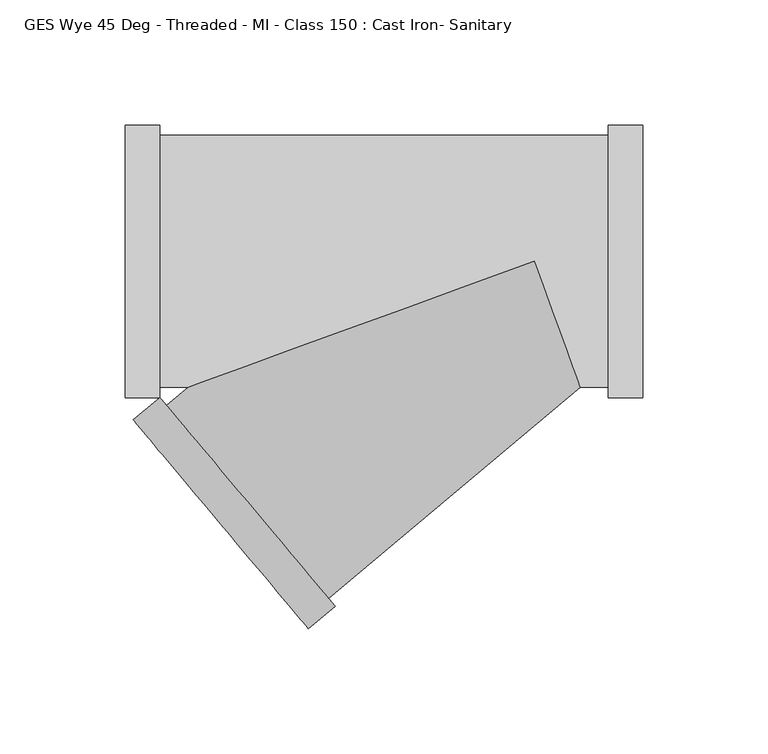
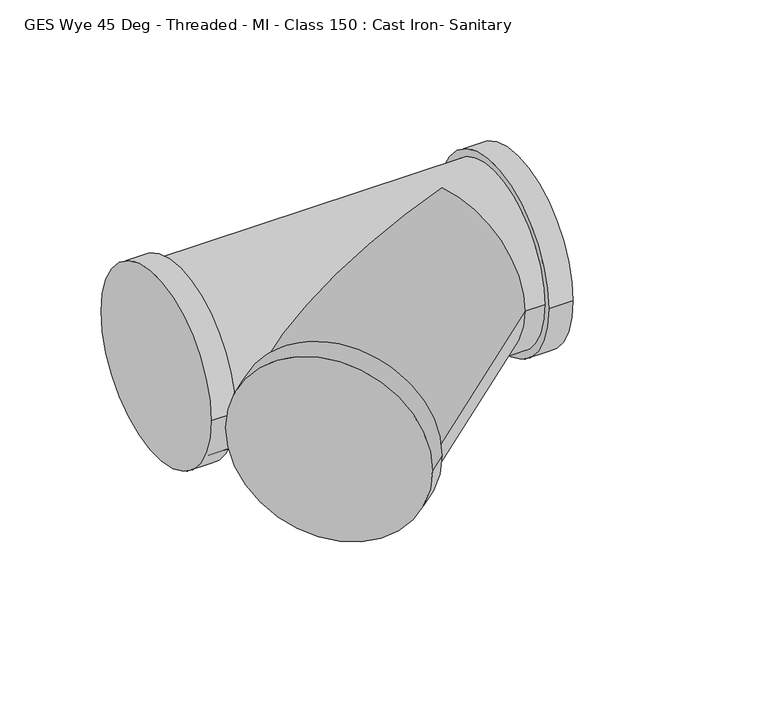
"""IFC4 building model written with IfcOpenShell, lengths in millimetres: pipe fitting geometry, GES Wye 45 Deg - Threaded - MI - Class 150 : Cast Iron- Sanitary."""

from ifc_helpers import new_model, si_unit, frame, origin, place, context, project, spatial, circle_curve, ellipse_curve, source, transform, mapped, element, save
from ifc_brep_helpers import plane_surface, cylinder_surface, advanced_brep


def ges_wye_45_deg_threaded_mi_class_150_cast_iron_sanitary_f6564ef3(model_context):
    return source(origin(), model_context, "Body", "AdvancedBrep", [
        advanced_brep(
        [(-146.8217219, -57.5252557, 0.0), (-82.1255317, -134.6148955, 0.0), (18.3172165, -50.32, 0.0), (0.0, 0.0, 50.32), (-138.2361999, -50.32, 0.0), (0.0, 0.0, -50.32), (-149.4445404, -54.4, 0.0), (-79.5027132, -137.7401512, 0.0), (-160.0918575, -63.3355827, 0.0), (-90.1500303, -146.6757339, 0.0), (-149.4445404, 50.32, 0.0), (29.5, 50.32, 0.0), (29.5, -50.32, 0.0), (-149.4445404, -50.32, 0.0), (-149.4445404, -54.4, 0.0), (-149.4445404, 54.4, 0.0), (-163.3445404, -54.4, 0.0), (-163.3445404, 54.4, 0.0), (29.5, -54.4, 0.0), (29.5, 54.4, 0.0), (43.4, -54.4, 0.0), (43.4, 54.4, 0.0)],
        [
            (0, 1, circle_curve(frame((-114.4736268, -96.0700756, 0.0), z_axis=(0.7659940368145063, 0.6428476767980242, 0.0), x_axis=(0.6428476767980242, -0.7659940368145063, 0.0)), 50.32)),
            (1, 2),
            (2, 3, ellipse_curve(frame((0.0, 0.0, 0.0), z_axis=(-0.939679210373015, -0.34205698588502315, 0.0), x_axis=(-0.34205698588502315, 0.939679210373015, 0.0)), 53.5501897, 50.32)),
            (3, 4, ellipse_curve(frame((0.0, 0.0, 0.0), z_axis=(0.342056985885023, -0.939679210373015, 0.0), x_axis=(0.9396792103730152, 0.34205698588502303, 0.0)), 147.1099907, 50.32)),
            (4, 0),
            (1, 0, circle_curve(frame((-114.4736268, -96.0700756, 0.0), z_axis=(0.7659940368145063, 0.6428476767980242, 0.0), x_axis=(0.6428476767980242, -0.7659940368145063, 0.0)), 50.32)),
            (4, 5, ellipse_curve(frame((0.0, 0.0, 0.0), z_axis=(0.342056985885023, -0.939679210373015, 0.0), x_axis=(0.9396792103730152, 0.34205698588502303, 0.0)), 147.1099907, 50.32)),
            (5, 2, ellipse_curve(frame((0.0, 0.0, 0.0), z_axis=(-0.939679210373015, -0.34205698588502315, 0.0), x_axis=(-0.34205698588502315, 0.939679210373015, 0.0)), 53.5501897, 50.32)),
            (6, 7, circle_curve(frame((-114.4736268, -96.0700756, 0.0), z_axis=(0.7659940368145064, 0.6428476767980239, 0.0), x_axis=(0.6428476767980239, -0.7659940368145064, 0.0)), 54.4)),
            (7, 6, circle_curve(frame((-114.4736268, -96.0700756, 0.0), z_axis=(0.7659940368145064, 0.6428476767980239, 0.0), x_axis=(0.6428476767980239, -0.7659940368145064, 0.0)), 54.4)),
            (8, 9, circle_curve(frame((-125.1209439, -105.0056583, 0.0), z_axis=(-0.7659940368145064, -0.6428476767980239, 0.0), x_axis=(0.6428476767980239, -0.7659940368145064, 0.0)), 54.4)),
            (9, 8, circle_curve(frame((-125.1209439, -105.0056583, 0.0), z_axis=(-0.7659940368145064, -0.6428476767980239, 0.0), x_axis=(0.6428476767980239, -0.7659940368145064, 0.0)), 54.4)),
            (6, 8),
            (9, 7),
            (10, 11),
            (11, 12, circle_curve(frame((29.5, 0.0, 0.0), z_axis=(-1.0, 0.0, 0.0), x_axis=(0.0, 1.0, 0.0)), 50.32)),
            (12, 2),
            (4, 13),
            (13, 10, circle_curve(frame((-149.4445404, 0.0, 0.0), z_axis=(1.0, 0.0, 0.0), x_axis=(0.0, 1.0, 0.0)), 50.32)),
            (10, 13, circle_curve(frame((-149.4445404, 0.0, 0.0), z_axis=(1.0, 0.0, 0.0), x_axis=(0.0, 1.0, 0.0)), 50.32)),
            (12, 11, circle_curve(frame((29.5, 0.0, 0.0), z_axis=(-1.0, 0.0, 0.0), x_axis=(0.0, 1.0, 0.0)), 50.32)),
            (14, 15, circle_curve(frame((-149.4445404, 0.0, 0.0), z_axis=(1.0, 0.0, 0.0), x_axis=(0.0, 1.0, 0.0)), 54.4)),
            (15, 14, circle_curve(frame((-149.4445404, 0.0, 0.0), z_axis=(1.0, 0.0, 0.0), x_axis=(0.0, 1.0, 0.0)), 54.4)),
            (16, 17, circle_curve(frame((-163.3445404, 0.0, 0.0), z_axis=(-1.0, 0.0, 0.0), x_axis=(0.0, 1.0, 0.0)), 54.4)),
            (17, 16, circle_curve(frame((-163.3445404, 0.0, 0.0), z_axis=(-1.0, 0.0, 0.0), x_axis=(0.0, 1.0, 0.0)), 54.4)),
            (14, 16),
            (17, 15),
            (18, 19, circle_curve(frame((29.5, 0.0, 0.0), z_axis=(-1.0, 0.0, 0.0), x_axis=(0.0, 1.0, 0.0)), 54.4)),
            (19, 18, circle_curve(frame((29.5, 0.0, 0.0), z_axis=(-1.0, 0.0, 0.0), x_axis=(0.0, 1.0, 0.0)), 54.4)),
            (20, 21, circle_curve(frame((43.4, 0.0, 0.0), z_axis=(1.0, 0.0, 0.0), x_axis=(0.0, 1.0, 0.0)), 54.4)),
            (21, 20, circle_curve(frame((43.4, 0.0, 0.0), z_axis=(1.0, 0.0, 0.0), x_axis=(0.0, 1.0, 0.0)), 54.4)),
            (19, 21),
            (20, 18),
        ],
        [
            cylinder_surface(frame((0.0, 0.0, 0.0), z_axis=(0.7659940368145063, 0.6428476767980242, 0.0), x_axis=(0.6428476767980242, -0.7659940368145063, 0.0)), 50.32),
            plane_surface(frame((-114.4736268, -96.0700756, 0.0), z_axis=(0.7659940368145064, 0.642847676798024, 0.0), x_axis=(0.0, 0.0, 1.0))),
            plane_surface(frame((-125.1209439, -105.0056583, 0.0), z_axis=(-0.7659940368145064, -0.642847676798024, 0.0), x_axis=(0.0, 0.0, 1.0))),
            cylinder_surface(frame((-114.4736268, -96.0700756, 0.0), z_axis=(0.7659940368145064, 0.6428476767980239, 0.0), x_axis=(0.6428476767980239, -0.7659940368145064, 0.0)), 54.4),
            cylinder_surface(frame((-149.4445404, 0.0, 0.0), z_axis=(1.0, 0.0, 0.0), x_axis=(0.0, 1.0, 0.0)), 50.32),
            plane_surface(frame((-149.4445404, 54.4, 0.0), z_axis=(1.0, 0.0, 0.0), x_axis=(0.0, 0.0, 1.0))),
            plane_surface(frame((-163.3445404, 54.4, 0.0), z_axis=(-1.0, 0.0, 0.0), x_axis=(0.0, 0.0, -1.0))),
            cylinder_surface(frame((-163.3445404, 0.0, 0.0), z_axis=(1.0, 0.0, 0.0), x_axis=(0.0, 1.0, 0.0)), 54.4),
            plane_surface(frame((29.5, 54.4, 0.0), z_axis=(-1.0, 0.0, 0.0), x_axis=(0.0, 0.0, -1.0))),
            plane_surface(frame((43.4, 54.4, 0.0), z_axis=(1.0, 0.0, 0.0), x_axis=(0.0, 0.0, 1.0))),
            cylinder_surface(frame((29.5, 0.0, 0.0), z_axis=(1.0, 0.0, 0.0), x_axis=(0.0, 1.0, 0.0)), 54.4),
        ],
        [
            (0, [[1, 2, 3, 4, 5]]),
            (0, [[6, -5, 7, 8, -2]]),
            (1, [[9, 10], [-1, -6]]),
            (2, [[11, 12]]),
            (3, [[-9, 13, -12, 14]]),
            (3, [[-10, -14, -11, -13]]),
            (4, [[15, 16, 17, -8, -7, 18, 19]]),
            (4, [[-15, 20, -18, -4, -3, -17, 21]]),
            (5, [[22, 23], [-19, -20]]),
            (6, [[24, 25]]),
            (7, [[-22, 26, -25, 27]]),
            (7, [[-23, -27, -24, -26]]),
            (8, [[28, 29], [-16, -21]]),
            (9, [[30, 31]]),
            (10, [[-29, 32, -30, 33]]),
            (10, [[-28, -33, -31, -32]]),
        ],
    ),
    ])


if __name__ == "__main__":
    model = new_model("IFC4")
    model_context = context("Model", 3, world=origin())
    ifc_project = project(units=[si_unit("LENGTHUNIT", "METRE", prefix="MILLI")], contexts=[model_context])
    site = spatial("IfcSite", under=ifc_project)
    building = spatial("IfcBuilding", under=site)
    placement = place(None, origin())
    ges_wye_45_deg_threaded_mi_class_150_cast_iron_sanitary_shape = ges_wye_45_deg_threaded_mi_class_150_cast_iron_sanitary_f6564ef3(model_context)
    element("IfcPipeFitting", 1, ObjectType="GES Wye 45 Deg - Threaded - MI - Class 150 : Cast Iron- Sanitary", at=placement, inside=building, context=model_context, shape_type="MappedRepresentation", body=[
        mapped(ges_wye_45_deg_threaded_mi_class_150_cast_iron_sanitary_shape, transform((0.0, 0.0, 0.0), x_axis=(1.0, 0.0, 0.0), y_axis=(0.0, 1.0, 0.0), z_axis=(0.0, 0.0, 1.0))),
    ])
    save(model, "model.ifc")
